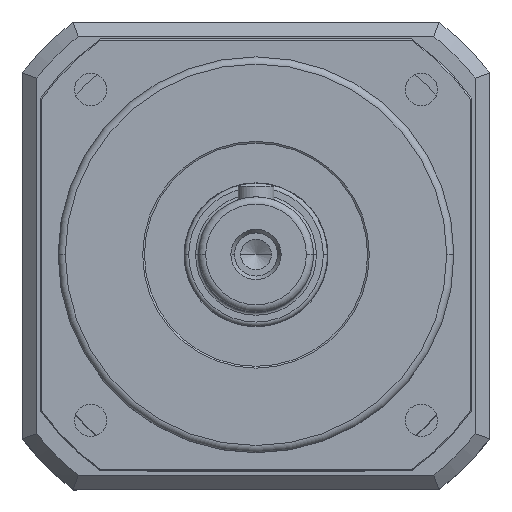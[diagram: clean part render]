
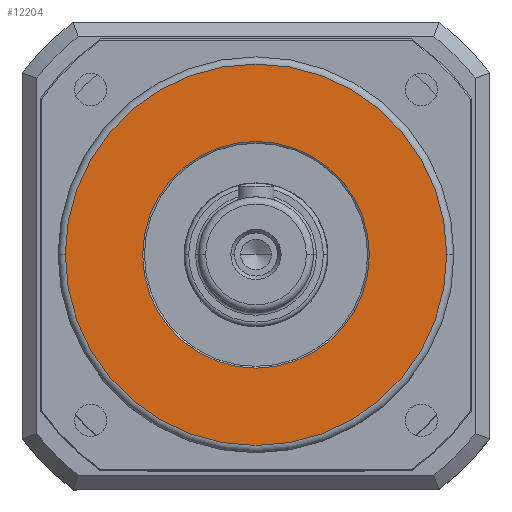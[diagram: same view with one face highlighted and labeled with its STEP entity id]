
A CAD part, top view. The second image highlights one B-rep face of the part: STEP entity #12204.
In plain terms, the highlighted planar face has unit normal (0, 0, 1).
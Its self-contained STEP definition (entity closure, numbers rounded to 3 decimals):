
#982 = EDGE_CURVE ( 'NONE', #16288, #16293, #7769, .T. ) ;
#983 = EDGE_CURVE ( 'NONE', #16277, #16260, #7776, .T. ) ;
#5667 = EDGE_LOOP ( 'NONE', ( #14707, #14709 ) ) ;
#5674 = EDGE_LOOP ( 'NONE', ( #14711, #14710 ) ) ;
#7769 = CIRCLE ( 'NONE', #7775, 31.5 ) ;
#7775 = AXIS2_PLACEMENT_3D ( 'NONE', #12374, #12375, #12376 ) ;
#7776 = CIRCLE ( 'NONE', #7777, 53. ) ;
#7777 = AXIS2_PLACEMENT_3D ( 'NONE', #12377, #12378, #12379 ) ;
#10397 = CARTESIAN_POINT ( 'NONE',  ( 53., 0., 12. ) ) ;
#10414 = CARTESIAN_POINT ( 'NONE',  ( -53., 0., 12. ) ) ;
#10425 = CARTESIAN_POINT ( 'NONE',  ( -31.5, 0., 12. ) ) ;
#10430 = CARTESIAN_POINT ( 'NONE',  ( 31.5, 0., 12. ) ) ;
#11626 = PLANE ( 'NONE',  #14132 ) ;
#11627 = CARTESIAN_POINT ( 'NONE',  ( 0., 0., 12. ) ) ;
#11628 = DIRECTION ( 'NONE',  ( 0., 0., 1. ) ) ;
#11629 = DIRECTION ( 'NONE',  ( 1., 0., 0. ) ) ;
#12204 = ADVANCED_FACE ( 'NONE', ( #13922, #13923 ), #11626, .T. ) ;
#12374 = CARTESIAN_POINT ( 'NONE',  ( 0., 0., 12. ) ) ;
#12375 = DIRECTION ( 'NONE',  ( 0., 0., -1. ) ) ;
#12376 = DIRECTION ( 'NONE',  ( 1., 0., 0. ) ) ;
#12377 = CARTESIAN_POINT ( 'NONE',  ( 0., 0., 12. ) ) ;
#12378 = DIRECTION ( 'NONE',  ( 0., 0., 1. ) ) ;
#12379 = DIRECTION ( 'NONE',  ( 1., 0., 0. ) ) ;
#13922 = FACE_BOUND ( 'NONE', #5667, .T. ) ;
#13923 = FACE_OUTER_BOUND ( 'NONE', #5674, .T. ) ;
#14132 = AXIS2_PLACEMENT_3D ( 'NONE', #11627, #11628, #11629 ) ;
#14707 = ORIENTED_EDGE ( 'NONE', *, *, #15420, .T. ) ;
#14709 = ORIENTED_EDGE ( 'NONE', *, *, #982, .T. ) ;
#14710 = ORIENTED_EDGE ( 'NONE', *, *, #983, .T. ) ;
#14711 = ORIENTED_EDGE ( 'NONE', *, *, #15424, .T. ) ;
#14944 = CARTESIAN_POINT ( 'NONE',  ( 0., 0., 12. ) ) ;
#14945 = DIRECTION ( 'NONE',  ( 0., 0., -1. ) ) ;
#14946 = DIRECTION ( 'NONE',  ( 1., 0., 0. ) ) ;
#14955 = CARTESIAN_POINT ( 'NONE',  ( 0., 0., 12. ) ) ;
#14956 = DIRECTION ( 'NONE',  ( 0., 0., 1. ) ) ;
#14957 = DIRECTION ( 'NONE',  ( 1., 0., 0. ) ) ;
#15122 = CIRCLE ( 'NONE', #15124, 31.5 ) ;
#15124 = AXIS2_PLACEMENT_3D ( 'NONE', #14944, #14945, #14946 ) ;
#15130 = CIRCLE ( 'NONE', #15131, 53. ) ;
#15131 = AXIS2_PLACEMENT_3D ( 'NONE', #14955, #14956, #14957 ) ;
#15420 = EDGE_CURVE ( 'NONE', #16293, #16288, #15122, .T. ) ;
#15424 = EDGE_CURVE ( 'NONE', #16260, #16277, #15130, .T. ) ;
#16260 = VERTEX_POINT ( 'NONE', #10397 ) ;
#16277 = VERTEX_POINT ( 'NONE', #10414 ) ;
#16288 = VERTEX_POINT ( 'NONE', #10425 ) ;
#16293 = VERTEX_POINT ( 'NONE', #10430 ) ;
